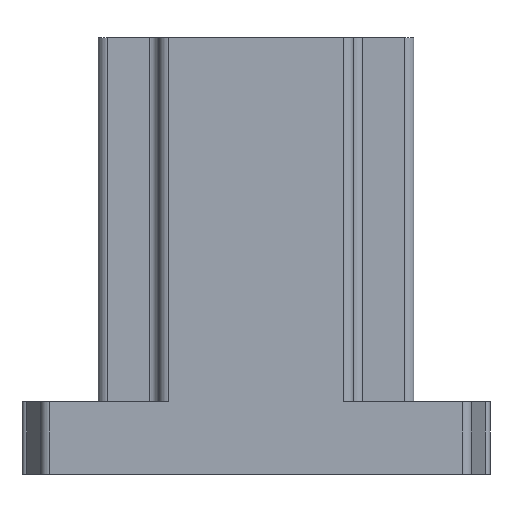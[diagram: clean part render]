
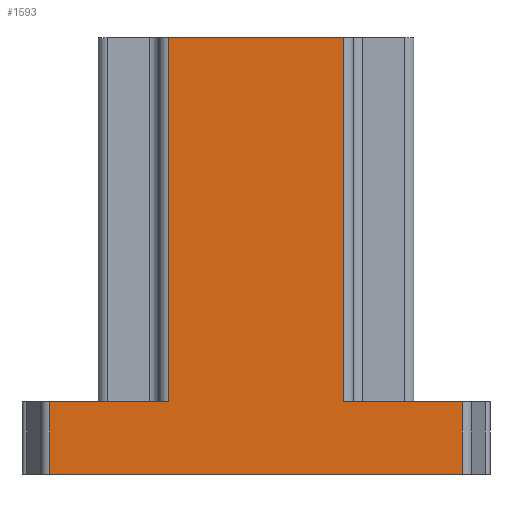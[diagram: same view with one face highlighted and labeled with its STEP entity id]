
A CAD part, front view. The second image highlights one B-rep face of the part: STEP entity #1593.
In plain terms, the highlighted planar face has unit normal (0, -1, 0).
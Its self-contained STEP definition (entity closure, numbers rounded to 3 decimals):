
#13 = VERTEX_POINT ( 'NONE', #1291 ) ;
#14 = VECTOR ( 'NONE', #1978, 1000. ) ;
#41 = VERTEX_POINT ( 'NONE', #295 ) ;
#48 = EDGE_CURVE ( 'NONE', #701, #294, #1736, .T. ) ;
#98 = ORIENTED_EDGE ( 'NONE', *, *, #48, .T. ) ;
#102 = ORIENTED_EDGE ( 'NONE', *, *, #1114, .F. ) ;
#140 = LINE ( 'NONE', #1311, #482 ) ;
#148 = VERTEX_POINT ( 'NONE', #1832 ) ;
#160 = VECTOR ( 'NONE', #631, 1000. ) ;
#170 = ORIENTED_EDGE ( 'NONE', *, *, #1896, .T. ) ;
#219 = DIRECTION ( 'NONE',  ( 1., 0., 0. ) ) ;
#294 = VERTEX_POINT ( 'NONE', #1046 ) ;
#295 = CARTESIAN_POINT ( 'NONE',  ( -3.6, -5.998, 0. ) ) ;
#308 = ORIENTED_EDGE ( 'NONE', *, *, #836, .F. ) ;
#395 = DIRECTION ( 'NONE',  ( 0., 0., 1. ) ) ;
#444 = ORIENTED_EDGE ( 'NONE', *, *, #2032, .T. ) ;
#463 = CARTESIAN_POINT ( 'NONE',  ( -4., -5.998, 15. ) ) ;
#482 = VECTOR ( 'NONE', #1642, 1000. ) ;
#567 = CARTESIAN_POINT ( 'NONE',  ( -3.6, -5.998, 0. ) ) ;
#583 = EDGE_CURVE ( 'NONE', #701, #41, #140, .T. ) ;
#589 = CARTESIAN_POINT ( 'NONE',  ( -3.6, -5.998, 15. ) ) ;
#631 = DIRECTION ( 'NONE',  ( 0., 0., -1. ) ) ;
#661 = FACE_OUTER_BOUND ( 'NONE', #823, .T. ) ;
#701 = VERTEX_POINT ( 'NONE', #1002 ) ;
#710 = VECTOR ( 'NONE', #750, 1000. ) ;
#715 = VECTOR ( 'NONE', #395, 1000. ) ;
#750 = DIRECTION ( 'NONE',  ( 0., 0., 1. ) ) ;
#781 = LINE ( 'NONE', #463, #14 ) ;
#797 = EDGE_CURVE ( 'NONE', #13, #1888, #866, .T. ) ;
#823 = EDGE_LOOP ( 'NONE', ( #308, #1079, #102, #170, #1861, #98, #2099, #444 ) ) ;
#836 = EDGE_CURVE ( 'NONE', #13, #148, #2004, .T. ) ;
#866 = LINE ( 'NONE', #1216, #715 ) ;
#944 = LINE ( 'NONE', #567, #2182 ) ;
#1002 = CARTESIAN_POINT ( 'NONE',  ( -8.499, -5.998, 0. ) ) ;
#1042 = CARTESIAN_POINT ( 'NONE',  ( -8.8, -5.998, -3. ) ) ;
#1046 = CARTESIAN_POINT ( 'NONE',  ( -8.499, -5.998, -3. ) ) ;
#1079 = ORIENTED_EDGE ( 'NONE', *, *, #797, .T. ) ;
#1108 = VECTOR ( 'NONE', #219, 1000. ) ;
#1114 = EDGE_CURVE ( 'NONE', #1965, #1888, #781, .T. ) ;
#1122 = DIRECTION ( 'NONE',  ( 1., 0., 0. ) ) ;
#1154 = LINE ( 'NONE', #1741, #710 ) ;
#1177 = VECTOR ( 'NONE', #1122, 1000. ) ;
#1195 = PLANE ( 'NONE',  #1604 ) ;
#1199 = LINE ( 'NONE', #1791, #1177 ) ;
#1216 = CARTESIAN_POINT ( 'NONE',  ( 3.6, -5.998, 15. ) ) ;
#1217 = DIRECTION ( 'NONE',  ( 0., 0., -1. ) ) ;
#1291 = CARTESIAN_POINT ( 'NONE',  ( 3.6, -5.998, 0. ) ) ;
#1311 = CARTESIAN_POINT ( 'NONE',  ( -8.8, -5.998, 0. ) ) ;
#1381 = CARTESIAN_POINT ( 'NONE',  ( 8.499, -5.998, -3. ) ) ;
#1400 = DIRECTION ( 'NONE',  ( 0., -1., 0. ) ) ;
#1542 = CARTESIAN_POINT ( 'NONE',  ( -8.8, -5.998, 0. ) ) ;
#1593 = ADVANCED_FACE ( 'NONE', ( #661 ), #1195, .T. ) ;
#1604 = AXIS2_PLACEMENT_3D ( 'NONE', #1042, #1400, #2072 ) ;
#1642 = DIRECTION ( 'NONE',  ( 1., 0., 0. ) ) ;
#1677 = VERTEX_POINT ( 'NONE', #1381 ) ;
#1736 = LINE ( 'NONE', #1795, #160 ) ;
#1741 = CARTESIAN_POINT ( 'NONE',  ( 8.499, -5.998, -3. ) ) ;
#1791 = CARTESIAN_POINT ( 'NONE',  ( -8.8, -5.998, -3. ) ) ;
#1795 = CARTESIAN_POINT ( 'NONE',  ( -8.499, -5.998, -3. ) ) ;
#1832 = CARTESIAN_POINT ( 'NONE',  ( 8.499, -5.998, 0. ) ) ;
#1861 = ORIENTED_EDGE ( 'NONE', *, *, #583, .F. ) ;
#1874 = CARTESIAN_POINT ( 'NONE',  ( 3.6, -5.998, 15. ) ) ;
#1888 = VERTEX_POINT ( 'NONE', #1874 ) ;
#1896 = EDGE_CURVE ( 'NONE', #1965, #41, #944, .T. ) ;
#1965 = VERTEX_POINT ( 'NONE', #589 ) ;
#1978 = DIRECTION ( 'NONE',  ( 1., 0., 0. ) ) ;
#2004 = LINE ( 'NONE', #1542, #1108 ) ;
#2032 = EDGE_CURVE ( 'NONE', #1677, #148, #1154, .T. ) ;
#2072 = DIRECTION ( 'NONE',  ( 0., 0., -1. ) ) ;
#2099 = ORIENTED_EDGE ( 'NONE', *, *, #2156, .T. ) ;
#2156 = EDGE_CURVE ( 'NONE', #294, #1677, #1199, .T. ) ;
#2182 = VECTOR ( 'NONE', #1217, 1000. ) ;
